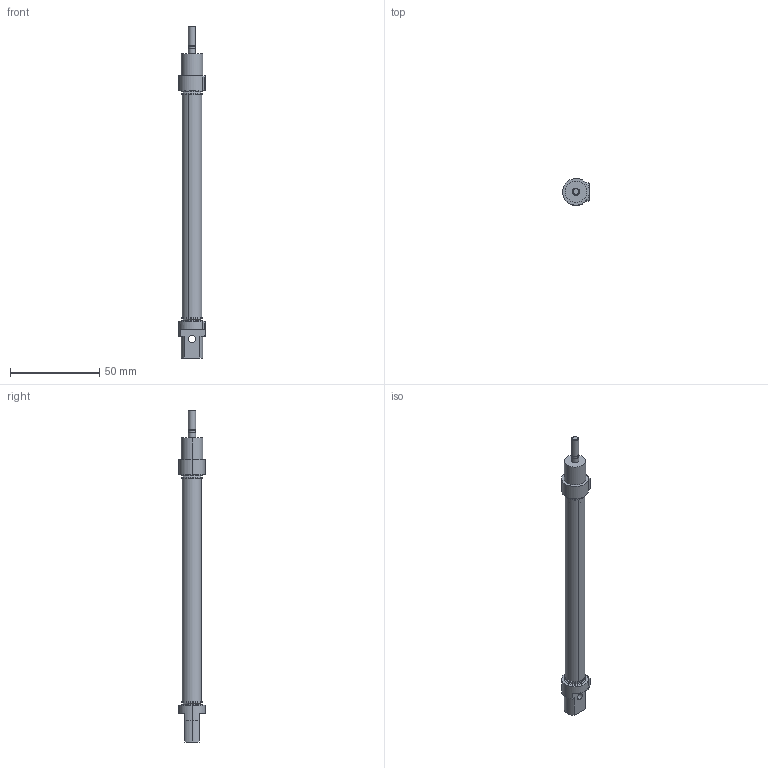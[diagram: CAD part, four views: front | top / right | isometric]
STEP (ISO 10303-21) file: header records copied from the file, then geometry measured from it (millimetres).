
FILE_DESCRIPTION (( 'STEP AP203' ), '1' );
FILE_NAME ('MA6432S10X100CYLINDER.STEP', '2015-05-13T07:24:43', ( 'user' ), ( '' ), 'SwSTEP 2.0', 'SolidWorks 2013', '' );
FILE_SCHEMA (( 'CONFIG_CONTROL_DESIGN' ));
Length unit declared in the file: millimetre
Products named in the file (6): MA6432S  10 ARKA KAPAK; MA6432S  10 ORTA PÝSTON; MA6432S  10X100 BORU; MA6432S  10 烰 KAPAK; MA6432S  10X100 M尳; MA6432S10X100CYLINDER
Assembly tree (5 placements, depth 2):
  MA6432S10X100CYLINDER
    MA6432S  10 ARKA KAPAK
    MA6432S  10 ORTA PÝSTON
    MA6432S  10X100 BORU
    MA6432S  10 烰 KAPAK
    MA6432S  10X100 M尳
Bounding box: 15 x 15 x 186 mm (x, y, z)
Volume: 10284.5 mm3; surface area: 15096.4 mm2
Topology: 5 solids, 6 shells, 173 faces, 377 edges, 236 vertices
Faces by surface type: cylinder 93, plane 48, cone 32
Entity records: 5581 total; most frequent: CARTESIAN_POINT 1035, DIRECTION 901, ORIENTED_EDGE 750, AXIS2_PLACEMENT_3D 378, EDGE_CURVE 375, VERTEX_POINT 236, EDGE_LOOP 207, CIRCLE 198
